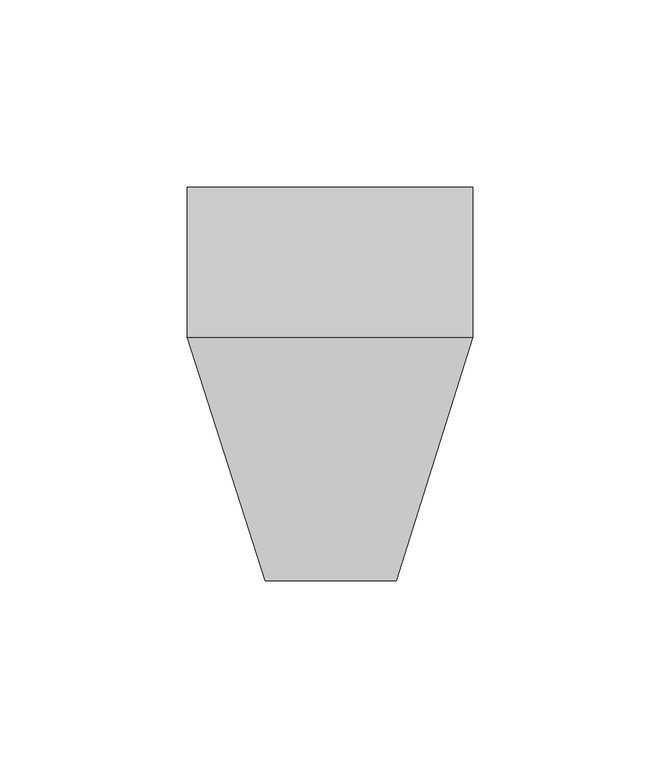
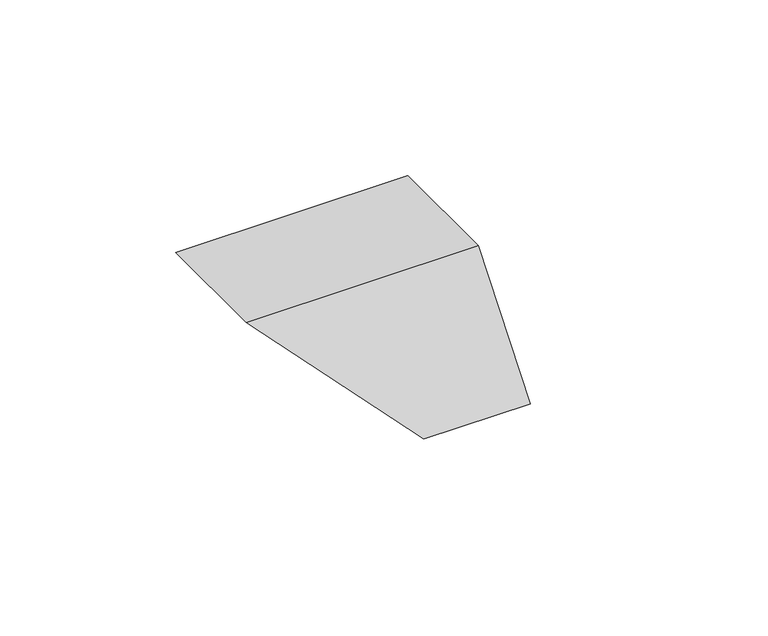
"""IFC4 building model written with IfcOpenShell, lengths in millimetres: duct fitting geometry, Ответветвление плоское 110 Белый : Отвод плоский - для односекционных кабель-каналов DLP 65х150/195/220 - ширина профиля 105 мм - белый."""

from ifc_helpers import new_model, si_unit, origin, place, context, project, spatial, faceted_brep, source, transform, mapped, element, save


def duct_fitting_a8191257(model_context):
    return source(origin(), model_context, "Body", "Brep", [
        faceted_brep([(37.8717666, 52.5, 8.5), (-38.2693175, 52.5, 8.5), (-38.2693175, 12.4507755, 8.5), (37.8717666, 12.4507755, 8.5), (17.5, 52.5, 0.0), (17.5, -52.5, 0.0), (-17.5, -52.5, 0.0), (-17.5, 52.5, 0.0)], [[[0, 1, 2, 3]], [[4, 5, 6, 7]], [[4, 7, 1, 0]], [[7, 6, 2, 1]], [[6, 5, 3, 2]], [[5, 4, 0, 3]]]),
    ])


if __name__ == "__main__":
    model = new_model("IFC4")
    model_context = context("Model", 3, world=origin())
    ifc_project = project(units=[si_unit("LENGTHUNIT", "METRE", prefix="MILLI")], contexts=[model_context])
    site = spatial("IfcSite", under=ifc_project)
    building = spatial("IfcBuilding", under=site)
    placement = place(None, origin())
    duct_fitting_shape = duct_fitting_a8191257(model_context)
    element("IfcDuctFitting", 1, ObjectType="Ответветвление плоское 110 Белый : Отвод плоский - для односекционных кабель-каналов DLP 65х150/195/220 - ширина профиля 105 мм - белый", at=placement, inside=building, context=model_context, shape_type="MappedRepresentation", body=[
        mapped(duct_fitting_shape, transform((0.0, 0.0, 0.0), x_axis=(1.0, 0.0, 0.0), y_axis=(0.0, 1.0, 0.0), z_axis=(0.0, 0.0, 1.0))),
    ])
    save(model, "model.ifc")
